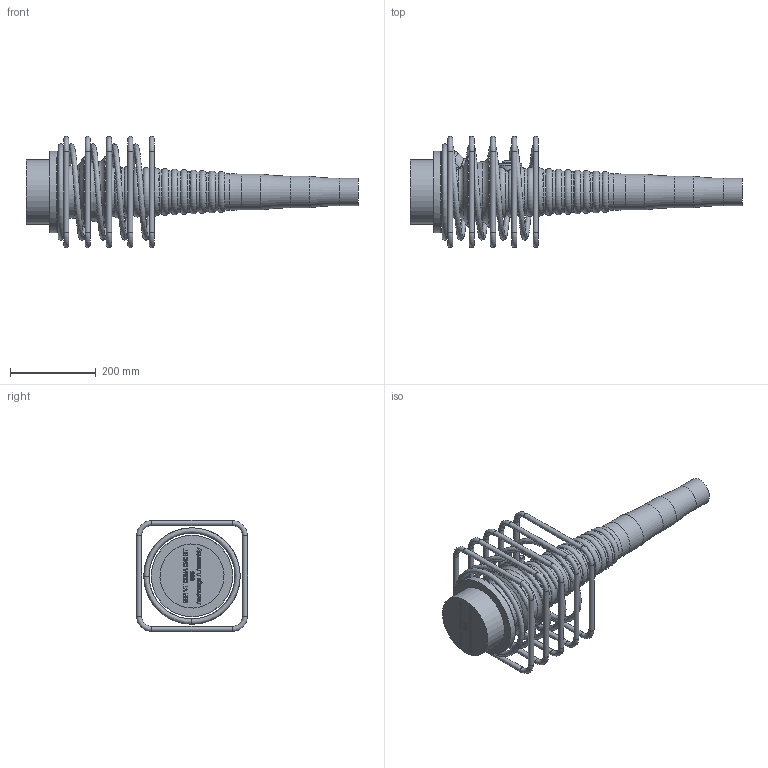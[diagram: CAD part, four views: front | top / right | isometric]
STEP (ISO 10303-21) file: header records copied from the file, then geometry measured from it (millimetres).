
FILE_DESCRIPTION(/* description */ (''),/* implementation_level */ '2;1');
FILE_NAME(/* name */ 'BBR VT CONA CMI BT 806_Anchorage A Assembly_CS-34,28.stp',/* time_stamp */ '2025-05-05T15:07:07+02:00',/* author */ ('tk'),/* organization */ (''),/* preprocessor_version */ 'ST-DEVELOPER v20',/* originating_system */ 'Autodesk Inventor 2024',/* authorisation */ '');
FILE_SCHEMA (('AUTOMOTIVE_DESIGN { 1 0 10303 214 3 1 1 }'));
Length unit declared in the file: millimetre
Products named in the file (1): BBR VT CONA CMI BT 806_Anchorage A Assembly_CS-34,28
Bounding box: 776.53 x 260 x 260 mm (x, y, z)
Volume: 8011658.4 mm3; surface area: 637118.7 mm2
Topology: 7 solids, 7 shells, 769 faces, 2044 edges, 1335 vertices
Faces by surface type: bspline 315, plane 311, torus 76, cylinder 38, cone 17, sphere 12
Full cylindrical faces by diameter (mm): 12 x20, 34 x1, 57 x1, 64.013 x1, 74.013 x1, 84.013 x1, 150 x1, 163.937 x1, 165.108 x1, 190 x1
Entity records: 28973 total; most frequent: CARTESIAN_POINT 10899, ORIENTED_EDGE 4080, DIRECTION 2662, EDGE_CURVE 2040, VERTEX_POINT 1335, LINE 1076, VECTOR 1076, EDGE_LOOP 829
